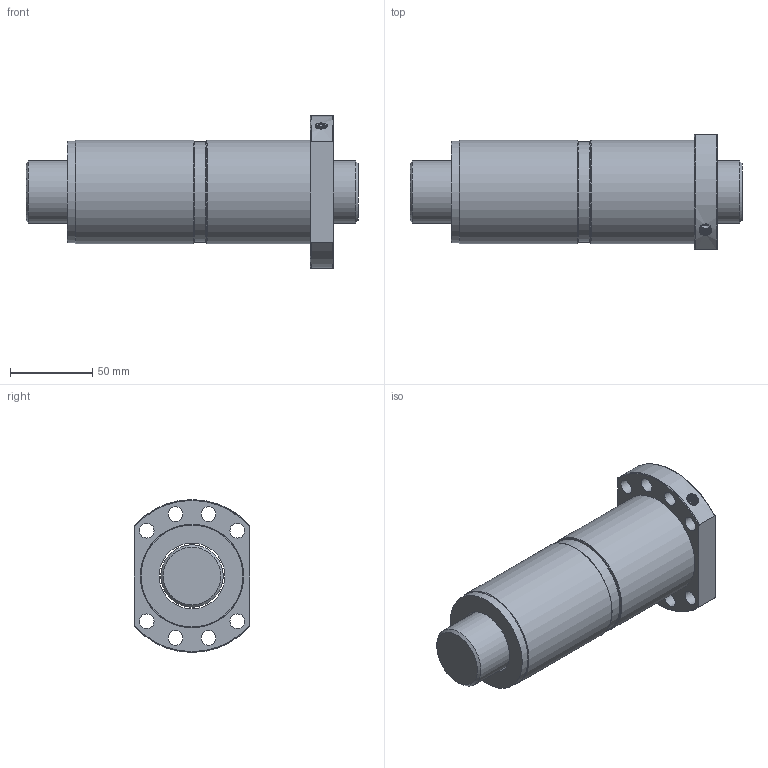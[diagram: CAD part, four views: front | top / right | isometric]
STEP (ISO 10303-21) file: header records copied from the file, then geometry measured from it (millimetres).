
FILE_DESCRIPTION(/* description */ ('Unknown','CAx-IF Rec.Pracs.---Representation and Presentation of Product Manufacturing Information (PMI)---4.0---2014-10-13','CAx-IF Rec.Pracs.---3D Tessellated Geometry---0.4---2014-09-14','2;1'),/* implementation_level */ '2;1');
FILE_NAME(/* name */ 'DFS04020',/* time_stamp */ '2020-12-08T12:00:04+08:00',/* author */ ('Unknown'),/* organization */ ('Unknown'),/* preprocessor_version */ 'ST-DEVELOPER v16.7',/* originating_system */ 'Solid Edge',/* authorisation */ 'Unknown');
FILE_SCHEMA (('AP242_MANAGED_MODEL_BASED_3D_ENGINEERING_MIM_LF { 1 0 10303 442 1 1 4 }'));
Length unit declared in the file: millimetre
Products named in the file (1): DFS04020
Bounding box: 202 x 70 x 93 mm (x, y, z)
Volume: 558381.2 mm3; surface area: 92009.9 mm2
Topology: 2 solids, 2 shells, 45 faces, 109 edges, 72 vertices
Faces by surface type: cylinder 20, plane 11, torus 9, cone 3, bspline 2
Full cylindrical faces by diameter (mm): 4 x1, 6.917 x1, 9 x8, 38 x1, 40 x1, 61.004 x1, 62 x1, 63 x2
Entity records: 3068 total; most frequent: CARTESIAN_POINT 2059, DIRECTION 198, ORIENTED_EDGE 150, AXIS2_PLACEMENT_3D 96, EDGE_LOOP 93, FACE_BOUND 93, EDGE_CURVE 75, VERTEX_POINT 62
